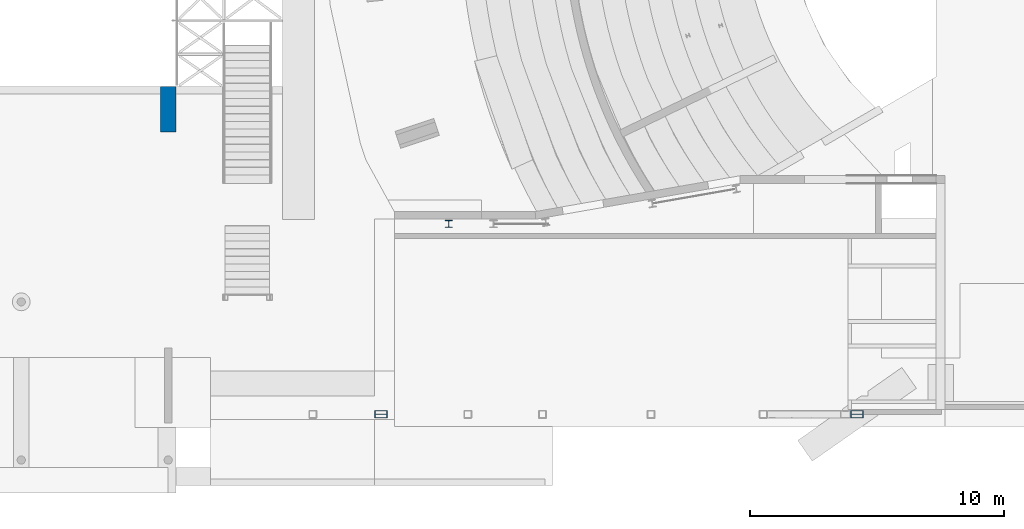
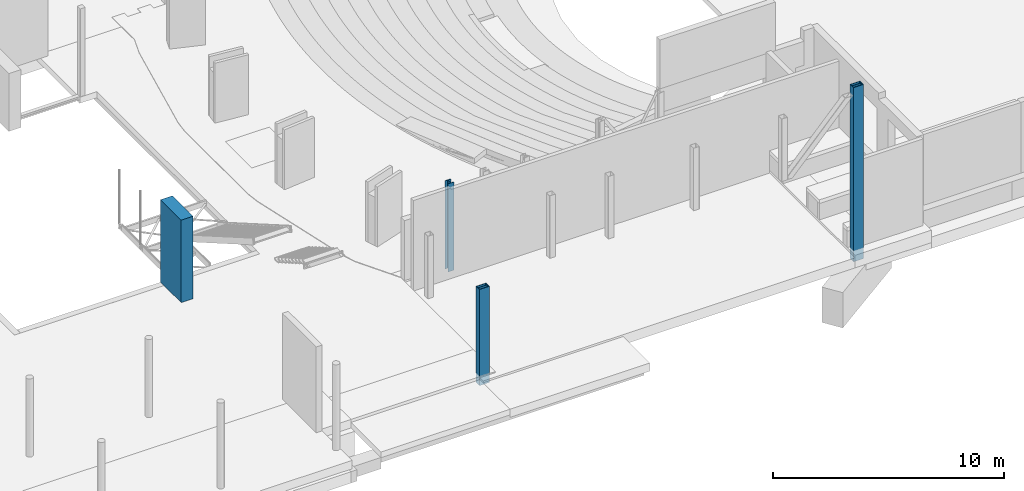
# One storey, part 2 of 34: 4 columns.
"""IFC2X3 building model written with IfcOpenShell, lengths in millimetres."""

from ifc_helpers import new_model, entity, si_unit, converted_unit, derived_unit, direction, frame, frame_2d, origin, origin_2d_with_axis, place, context, subcontext, project, spatial, rectangle, i_section, extrude, source, transform, mapped, material, type_object, type_shapes, element, save


model = new_model("IFC2X3")

# Units and contexts
model_context = context("Model", 3, precision=0.01, world=origin(), true_north=direction((6.12303176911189e-17, 1.0)))
body_context = subcontext(model_context, "Body", "Model", "MODEL_VIEW")
ifc_project = project(units=[si_unit("LENGTHUNIT", "METRE", prefix="MILLI"), si_unit("AREAUNIT", "SQUARE_METRE", prefix="MILLI"), si_unit("VOLUMEUNIT", "CUBIC_METRE"), converted_unit("PLANEANGLEUNIT", "DEGREE", entity("IfcRatioMeasure", 0.0174532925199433), si_unit("PLANEANGLEUNIT", "RADIAN"), dimensions=[0, 0, 0, 0, 0, 0, 0]), si_unit("MASSUNIT", "GRAM", prefix="KILO"), derived_unit("MASSDENSITYUNIT", [(si_unit("MASSUNIT", "GRAM", prefix="KILO"), 1), (si_unit("LENGTHUNIT", "METRE"), -3)]), derived_unit("MOMENTOFINERTIAUNIT", [(si_unit("LENGTHUNIT", "METRE"), 4)]), si_unit("TIMEUNIT", "SECOND"), si_unit("FREQUENCYUNIT", "HERTZ"), si_unit("THERMODYNAMICTEMPERATUREUNIT", "DEGREE_CELSIUS"), derived_unit("THERMALTRANSMITTANCEUNIT", [(si_unit("MASSUNIT", "GRAM", prefix="KILO"), 1), (si_unit("THERMODYNAMICTEMPERATUREUNIT", "KELVIN"), -1), (si_unit("TIMEUNIT", "SECOND"), -3)]), derived_unit("VOLUMETRICFLOWRATEUNIT", [(si_unit("LENGTHUNIT", "METRE"), 3), (si_unit("TIMEUNIT", "SECOND"), -1)]), si_unit("ELECTRICCURRENTUNIT", "AMPERE"), si_unit("ELECTRICVOLTAGEUNIT", "VOLT"), si_unit("POWERUNIT", "WATT"), si_unit("FORCEUNIT", "NEWTON", prefix="KILO"), si_unit("ILLUMINANCEUNIT", "LUX"), si_unit("LUMINOUSFLUXUNIT", "LUMEN"), si_unit("LUMINOUSINTENSITYUNIT", "CANDELA"), derived_unit("USERDEFINED", [(si_unit("MASSUNIT", "GRAM", prefix="KILO"), -1), (si_unit("LENGTHUNIT", "METRE"), -2), (si_unit("TIMEUNIT", "SECOND"), 3), (si_unit("LUMINOUSFLUXUNIT", "LUMEN"), 1)]), derived_unit("LINEARVELOCITYUNIT", [(si_unit("LENGTHUNIT", "METRE"), 1), (si_unit("TIMEUNIT", "SECOND"), -1)]), si_unit("PRESSUREUNIT", "PASCAL"), derived_unit("USERDEFINED", [(si_unit("LENGTHUNIT", "METRE"), -2), (si_unit("MASSUNIT", "GRAM", prefix="KILO"), 1), (si_unit("TIMEUNIT", "SECOND"), -2)]), derived_unit("LINEARFORCEUNIT", [(si_unit("MASSUNIT", "GRAM", prefix="KILO"), 1), (si_unit("LENGTHUNIT", "METRE"), 1), (si_unit("TIMEUNIT", "SECOND"), -2), (si_unit("LENGTHUNIT", "METRE"), -1)]), derived_unit("PLANARFORCEUNIT", [(si_unit("MASSUNIT", "GRAM", prefix="KILO"), 1), (si_unit("LENGTHUNIT", "METRE"), 1), (si_unit("TIMEUNIT", "SECOND"), -2), (si_unit("LENGTHUNIT", "METRE"), -2)])], contexts=[model_context])

# Site, building, storey
site_placement = place(None, origin())
site = spatial("IfcSite", under=ifc_project, at=site_placement, Name="Theater aan de Parade", CompositionType="ELEMENT")
building_placement = place(site_placement, origin())
building = spatial("IfcBuilding", under=site, at=building_placement, Name="Theater aan de Parade", CompositionType="ELEMENT")
storey_placement = place(building_placement, frame((0.0, 0.0, 3.49116848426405e-09)))
storey = spatial("IfcBuildingStorey", under=building, at=storey_placement, Name="00 begane grond", CompositionType="ELEMENT", Elevation=3.49116848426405e-09)

# Columns
ifc_material_1 = material(Name="00_PBT_MAT_beton t.p.g._C30/37")
column_type_1 = type_object("IfcColumnType", Name="28_PBT_SC_beton_rechthoekig:C30/37_1785x600", PredefinedType="COLUMN", material=ifc_material_1)
shared_shape_1 = source(origin(), body_context, "Body", "SweptSolid", [
    extrude(rectangle(XDim=1785.00000000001, YDim=600.000000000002, at=origin_2d_with_axis()), frame((37153.8581300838, 24962.3674033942, -90.0), z_axis=(0.0, 0.0, 1.0), x_axis=(0.0, -1.0, 0.0)), (0.0, 0.0, 1.0), 4359.99999999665),
])
type_shapes(column_type_1, [shared_shape_1])
column_1_placement = place(storey_placement, frame((0.0, 0.0, -3.49116848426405e-09)))
element("IfcColumn", 1, at=column_1_placement, inside=storey, type_object=column_type_1, material=ifc_material_1, Name="28_PBT_SC_beton_rechthoekig:C30/37_1785x600", ObjectType="28_PBT_SC_beton_rechthoekig:C30/37_1785x600", context=body_context, shape_type="MappedRepresentation", body=[
    mapped(shared_shape_1, transform((0.0, 0.0, 0.0), scale=1.0)),
])
ifc_material_2 = material(Name="00_PBT_MAT_staal_S355")
column_type_2 = type_object("IfcColumnType", Name="28_PBT_SC_staal_H-profiel_met ingelaste strippen:S355_HE500B", PredefinedType="COLUMN", material=ifc_material_2)
shared_shape_2 = source(origin(), body_context, "Body", "SweptSolid", [
    extrude(i_section(OverallWidth=299.999999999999, OverallDepth=500.000000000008, WebThickness=14.4999999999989, FlangeThickness=28.0000000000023, FilletRadius=27.0000000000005, at=frame_2d((-1.08002495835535e-12, -8.66862137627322e-12), x_axis=(1.0, 0.0))), frame((45525.0, 12955.0, -605.0), z_axis=(0.0, 0.0, 1.0), x_axis=(0.0, -1.0, 0.0)), (0.0, 0.0, 1.0), 5084.99999999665),
    extrude(rectangle(XDim=25.0000000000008, YDim=444.000000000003, at=frame_2d((-1.08357767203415e-12, 0.0), x_axis=(1.0, 0.0))), frame((45525.0, 13092.4999999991, -605.0), z_axis=(0.0, 0.0, 1.0), x_axis=(0.0, -1.0, 0.0)), (0.0, 0.0, 1.0), 5084.99999999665),
    extrude(rectangle(XDim=25.0000000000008, YDim=444.000000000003, at=origin_2d_with_axis()), frame((45525.0, 12817.4999999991, -605.0), z_axis=(0.0, 0.0, 1.0), x_axis=(0.0, -1.0, 0.0)), (0.0, 0.0, 1.0), 5084.99999999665),
])
type_shapes(column_type_2, [shared_shape_2])
column_2_placement = place(storey_placement, frame((0.0, 0.0, -3.49116848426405e-09)))
element("IfcColumn", 2, at=column_2_placement, inside=storey, type_object=column_type_2, material=ifc_material_2, Name="28_PBT_SC_staal_H-profiel_met ingelaste strippen:S355_HE500B", ObjectType="28_PBT_SC_staal_H-profiel_met ingelaste strippen:S355_HE500B", context=body_context, shape_type="MappedRepresentation", body=[
    mapped(shared_shape_2, transform((0.0, 0.0, 0.0), scale=1.0)),
])
column_type_3 = type_object("IfcColumnType", Name="28_PBT_SC_staal_H-profiel_met ingelaste strippen:S355_HE500B", PredefinedType="COLUMN", material=ifc_material_2)
shared_shape_3 = source(origin(), body_context, "Body", "SweptSolid", [
    extrude(i_section(OverallWidth=299.999999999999, OverallDepth=500.000000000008, WebThickness=14.4999999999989, FlangeThickness=28.0000000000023, FilletRadius=27.0000000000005, at=origin_2d_with_axis()), frame((64244.5520755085, 12955.0, -605.0), z_axis=(0.0, 0.0, 1.0), x_axis=(0.0, -1.0, 0.0)), (0.0, 0.0, 1.0), 9214.99999999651),
    extrude(rectangle(XDim=25.0000000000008, YDim=444.000000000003, at=frame_2d((-1.08357767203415e-12, 0.0), x_axis=(1.0, 0.0))), frame((64244.5520755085, 13092.499999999, -605.0), z_axis=(0.0, 0.0, 1.0), x_axis=(0.0, -1.0, 0.0)), (0.0, 0.0, 1.0), 9214.99999999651),
    extrude(rectangle(XDim=25.0000000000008, YDim=444.000000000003, at=frame_2d((-1.08357767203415e-12, 0.0), x_axis=(1.0, 0.0))), frame((64244.5520755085, 12817.499999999, -605.0), z_axis=(0.0, 0.0, 1.0), x_axis=(0.0, -1.0, 0.0)), (0.0, 0.0, 1.0), 9214.99999999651),
])
type_shapes(column_type_3, [shared_shape_3])
column_3_placement = place(storey_placement, frame((0.0, 0.0, -3.49116848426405e-09)))
element("IfcColumn", 3, at=column_3_placement, inside=storey, type_object=column_type_3, material=ifc_material_2, Name="28_PBT_SC_staal_H-profiel_met ingelaste strippen:S355_HE500B", ObjectType="28_PBT_SC_staal_H-profiel_met ingelaste strippen:S355_HE500B", context=body_context, shape_type="MappedRepresentation", body=[
    mapped(shared_shape_3, transform((0.0, 0.0, 0.0), scale=1.0)),
])
column_type_4 = type_object("IfcColumnType", Name="28_PBT_SC_staal_H-profiel:S355_HE280B", PredefinedType="COLUMN", material=ifc_material_2)
shared_shape_4 = source(origin(), body_context, "Body", "SweptSolid", [
    extrude(i_section(OverallWidth=279.999999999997, OverallDepth=279.999999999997, WebThickness=10.4999999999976, FlangeThickness=18.0000000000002, FilletRadius=24.0000000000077, at=frame_2d((0.0, 4.32009983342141e-12), x_axis=(0.0, 1.0))), frame((48186.4713059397, 20445.0, -105.0), z_axis=(0.0, 0.0, 1.0), x_axis=(0.0, -1.0, 0.0)), (0.0, 0.0, 1.0), 4664.99999999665),
])
type_shapes(column_type_4, [shared_shape_4])
column_4_placement = place(storey_placement, frame((0.0, 0.0, -3.49116848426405e-09)))
element("IfcColumn", 4, at=column_4_placement, inside=storey, type_object=column_type_4, material=ifc_material_2, Name="28_PBT_SC_staal_H-profiel:S355_HE280B", ObjectType="28_PBT_SC_staal_H-profiel:S355_HE280B", context=body_context, shape_type="MappedRepresentation", body=[
    mapped(shared_shape_4, transform((0.0, 0.0, 0.0), scale=1.0)),
])

save(model, "model.ifc")
